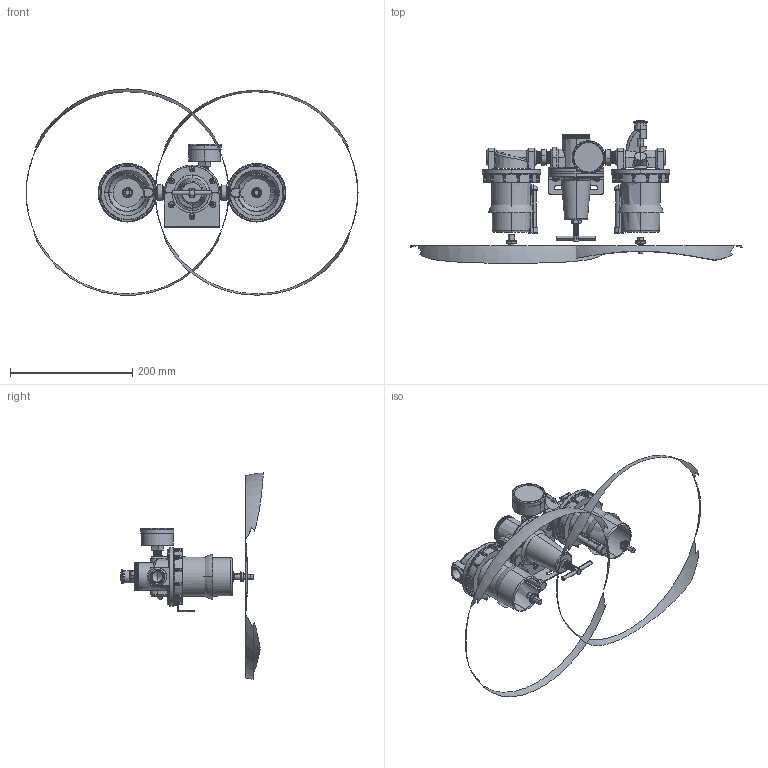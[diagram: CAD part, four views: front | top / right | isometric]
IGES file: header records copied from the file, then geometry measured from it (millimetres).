
Start section: SolidWorks IGES file using analytic representation for surfaces
Global section: file name: D:\Custom\3D繪製\FRL\FRL系列\C628W-04#YB#.IGS; native system: SolidWorks 2014; preprocessor: SolidWorks 2014; author: Chieh_Lu; date: 160115.013222; units: millimetre
Bounding box: 542.09 x 233.04 x 336.63 mm (x, y, z)
Surface area: 257651 mm2 (no closed solid volume)
Topology: 0 solids, 0 shells, 1678 faces, 20925 edges, 20894 vertices
Faces by surface type: bspline 894, revolution 784
